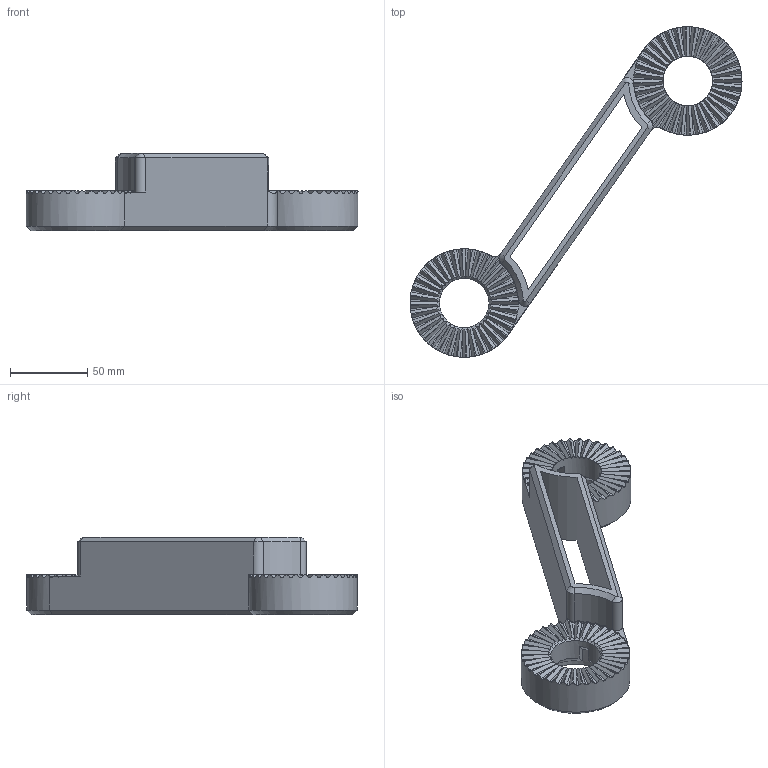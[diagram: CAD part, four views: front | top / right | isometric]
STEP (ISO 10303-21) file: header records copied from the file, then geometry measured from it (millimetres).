
FILE_DESCRIPTION(/* description */ (''),/* implementation_level */ '2;1');
FILE_NAME(/* name */ '/Users/rostapetr/Downloads/arm-EMPTY.step',/* time_stamp */ '2022-04-16T22:18:42+02:00',/* author */ (''),/* organization */ (''),/* preprocessor_version */ 'ST-DEVELOPER v18.1',/* originating_system */ 'Autodesk Translation Framework v10.14.0.1471',/* authorisation */ '');
FILE_SCHEMA (('AUTOMOTIVE_DESIGN { 1 0 10303 214 3 1 1 }'));
Length unit declared in the file: millimetre
Products named in the file (1): arm-EMPTY
Bounding box: 214.32 x 213.35 x 50 mm (x, y, z)
Volume: 241672.5 mm3; surface area: 62727.7 mm2
Topology: 1 solids, 1 shells, 387 faces, 1112 edges, 725 vertices
Faces by surface type: plane 314, cylinder 50, cone 23
Full cylindrical faces by diameter (mm): 32 x2, 45.5 x2
Entity records: 12789 total; most frequent: CARTESIAN_POINT 2419, DIRECTION 2291, ORIENTED_EDGE 2224, EDGE_CURVE 1112, AXIS2_PLACEMENT_3D 888, VERTEX_POINT 725, LINE 515, VECTOR 515
